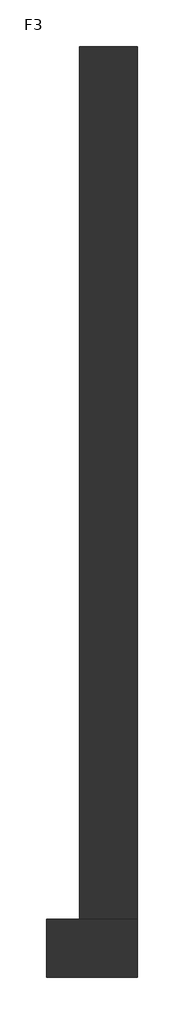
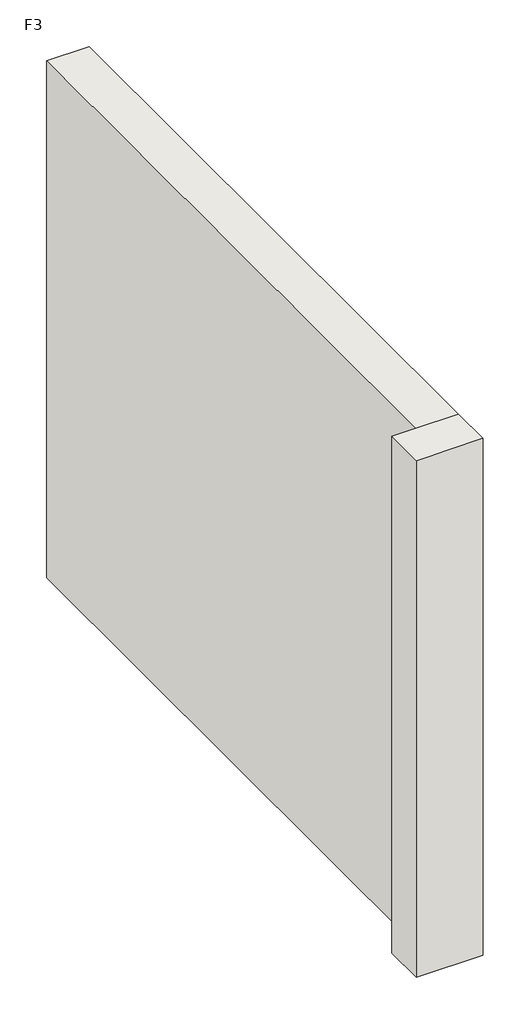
# One storey: 2 walls.
"""IFC4 building model written with IfcOpenShell, lengths in millimetres."""

from ifc_helpers import new_model, si_unit, frame, origin, place, context, project, spatial, polyline, outline, extrude, faceted_brep, element, save

model = new_model("IFC4")

# Units and contexts
model_context = context("Model", 3, world=origin())
ifc_project = project(units=[si_unit("LENGTHUNIT", "METRE", prefix="MILLI")], contexts=[model_context])

# Site, building, storey
site = spatial("IfcSite", under=ifc_project)
building = spatial("IfcBuilding", under=site)
storey = spatial("IfcBuildingStorey", under=building, Name="F3", Elevation=6600.0)

# Walls
placement = place(None, origin())
element("IfcWall", 1, ObjectType="辦公室-24cm-內牆", at=placement, inside=storey, context=model_context, shape_type="Brep", body=[
    faceted_brep([(-16881.7970835, -25309.0484842, 6600.0), (-16441.7970835, -25309.0484842, 6600.0), (-16441.7970835, -25309.0484842, 10200.0), (-16881.7970835, -25309.0484842, 10200.0), (-16881.7970835, -25029.0484842, 6600.0), (-16881.7970835, -25029.0484842, 10200.0), (-16721.7970835, -25029.0484842, 10200.0), (-16441.7970835, -25029.0484842, 10200.0), (-16441.7970835, -25029.0484842, 6600.0), (-16721.7970835, -25029.0484842, 6600.0)], [[[0, 1, 2, 3]], [[4, 5, 6, 7, 8, 9]], [[1, 0, 4, 9, 8]], [[3, 2, 7, 6, 5]], [[0, 3, 5, 4]], [[2, 1, 8, 7]]]),
])
element("IfcWall", 2, ObjectType="辦公室-24cm-內牆", at=placement, inside=storey, context=model_context, shape_type="SweptSolid", body=[
    extrude(outline(polyline([(-16441.7970835, -20809.0484842), (-16441.7970835, -25029.0484842), (-16721.7970835, -25029.0484842), (-16721.7970835, -20809.0484842), (-16441.7970835, -20809.0484842)])), frame((0.0, 0.0, 6600.0), z_axis=(0.0, 0.0, 1.0), x_axis=(1.0, 0.0, 0.0)), (0.0, 0.0, 1.0), 3600.0),
])

save(model, "model.ifc")
